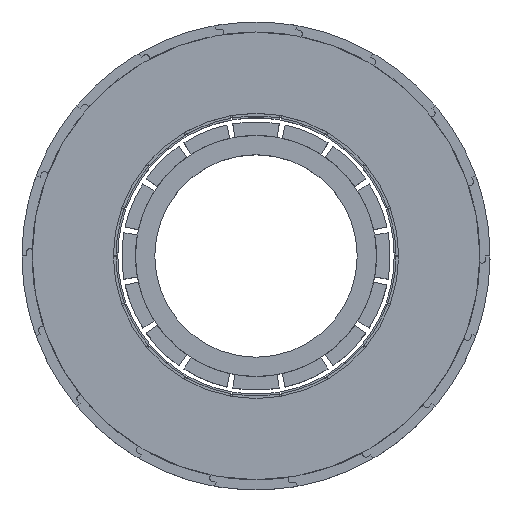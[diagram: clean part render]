
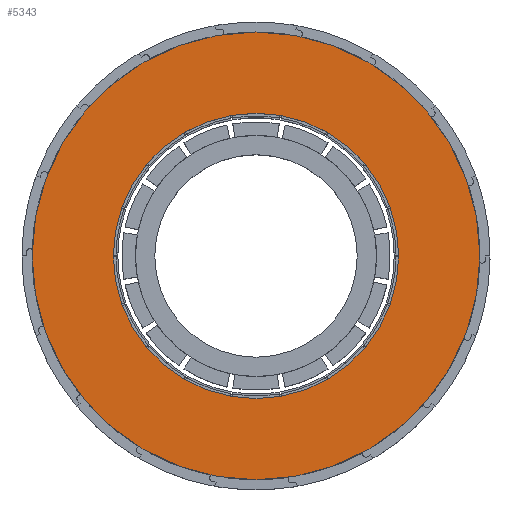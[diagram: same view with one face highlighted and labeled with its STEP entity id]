
A CAD part, top view. The second image highlights one B-rep face of the part: STEP entity #5343.
In plain terms, the highlighted planar face has unit normal (0, 0, 1).
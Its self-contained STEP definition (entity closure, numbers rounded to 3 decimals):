
#6 = ORIENTED_EDGE ( 'NONE', *, *, #1914, .T. ) ;
#284 = CARTESIAN_POINT ( 'NONE',  ( -49.75, 0., 27.1 ) ) ;
#312 = CIRCLE ( 'NONE', #1199, 31.7 ) ;
#409 = CARTESIAN_POINT ( 'NONE',  ( 0., 0., 27.1 ) ) ;
#445 = DIRECTION ( 'NONE',  ( 1., 0., 0. ) ) ;
#458 = DIRECTION ( 'NONE',  ( 1., 0., 0. ) ) ;
#676 = CARTESIAN_POINT ( 'NONE',  ( 0., 0., 27.1 ) ) ;
#718 = DIRECTION ( 'NONE',  ( 1., 0., 0. ) ) ;
#769 = VERTEX_POINT ( 'NONE', #3895 ) ;
#974 = EDGE_LOOP ( 'NONE', ( #6, #1130 ) ) ;
#1069 = DIRECTION ( 'NONE',  ( 0., 0., 1. ) ) ;
#1130 = ORIENTED_EDGE ( 'NONE', *, *, #3278, .T. ) ;
#1199 = AXIS2_PLACEMENT_3D ( 'NONE', #6124, #1781, #718 ) ;
#1498 = EDGE_CURVE ( 'NONE', #5907, #4382, #4418, .T. ) ;
#1641 = DIRECTION ( 'NONE',  ( 0., 0., 1. ) ) ;
#1730 = AXIS2_PLACEMENT_3D ( 'NONE', #2816, #1069, #458 ) ;
#1772 = DIRECTION ( 'NONE',  ( 0., 0., 1. ) ) ;
#1781 = DIRECTION ( 'NONE',  ( 0., 0., 1. ) ) ;
#1914 = EDGE_CURVE ( 'NONE', #4713, #769, #5546, .T. ) ;
#1982 = ORIENTED_EDGE ( 'NONE', *, *, #5986, .F. ) ;
#2177 = CARTESIAN_POINT ( 'NONE',  ( 31.7, 0., 27.1 ) ) ;
#2419 = ORIENTED_EDGE ( 'NONE', *, *, #1498, .F. ) ;
#2634 = AXIS2_PLACEMENT_3D ( 'NONE', #4137, #1772, #5601 ) ;
#2816 = CARTESIAN_POINT ( 'NONE',  ( 0., 0., 27.1 ) ) ;
#3278 = EDGE_CURVE ( 'NONE', #769, #4713, #5342, .T. ) ;
#3895 = CARTESIAN_POINT ( 'NONE',  ( 49.75, 0., 27.1 ) ) ;
#3918 = AXIS2_PLACEMENT_3D ( 'NONE', #409, #4742, #445 ) ;
#4100 = FACE_OUTER_BOUND ( 'NONE', #974, .T. ) ;
#4137 = CARTESIAN_POINT ( 'NONE',  ( 0., 0., 27.1 ) ) ;
#4284 = AXIS2_PLACEMENT_3D ( 'NONE', #676, #1641, #5044 ) ;
#4291 = EDGE_LOOP ( 'NONE', ( #2419, #1982 ) ) ;
#4382 = VERTEX_POINT ( 'NONE', #2177 ) ;
#4418 = CIRCLE ( 'NONE', #1730, 31.7 ) ;
#4508 = FACE_BOUND ( 'NONE', #4291, .T. ) ;
#4713 = VERTEX_POINT ( 'NONE', #284 ) ;
#4742 = DIRECTION ( 'NONE',  ( 0., 0., 1. ) ) ;
#5044 = DIRECTION ( 'NONE',  ( 1., 0., 0. ) ) ;
#5342 = CIRCLE ( 'NONE', #2634, 49.75 ) ;
#5343 = ADVANCED_FACE ( 'NONE', ( #4100, #4508 ), #5498, .T. ) ;
#5498 = PLANE ( 'NONE',  #4284 ) ;
#5546 = CIRCLE ( 'NONE', #3918, 49.75 ) ;
#5601 = DIRECTION ( 'NONE',  ( 1., 0., 0. ) ) ;
#5835 = CARTESIAN_POINT ( 'NONE',  ( -31.7, 0., 27.1 ) ) ;
#5907 = VERTEX_POINT ( 'NONE', #5835 ) ;
#5986 = EDGE_CURVE ( 'NONE', #4382, #5907, #312, .T. ) ;
#6124 = CARTESIAN_POINT ( 'NONE',  ( 0., 0., 27.1 ) ) ;
